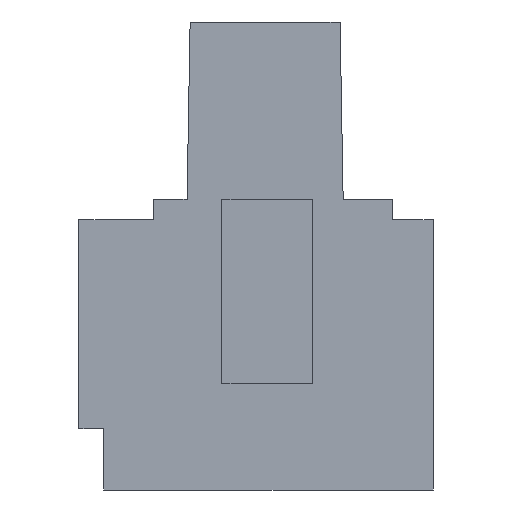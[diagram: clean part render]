
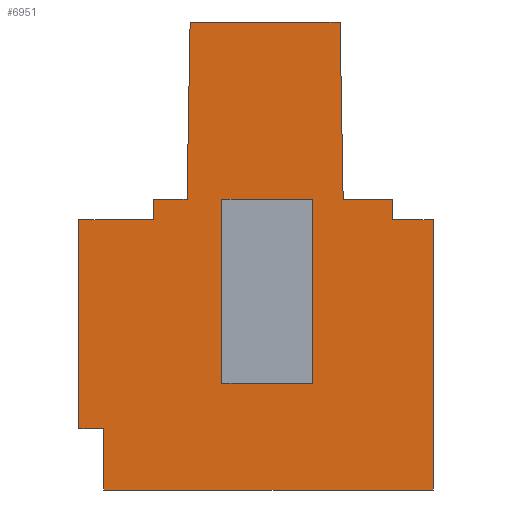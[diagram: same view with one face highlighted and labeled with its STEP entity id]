
A CAD part, left-side view. The second image highlights one B-rep face of the part: STEP entity #6951.
In plain terms, the highlighted planar face has unit normal (-1, 0, 0).
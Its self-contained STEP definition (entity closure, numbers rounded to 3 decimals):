
#2=DIRECTION('',(0.,-0.017,-1.));
#3=VECTOR('',#2,7.801);
#4=CARTESIAN_POINT('',(0.,4.1,20.6));
#5=LINE('',#4,#3);
#6=DIRECTION('',(0.,-1.,0.));
#7=VECTOR('',#6,2.164);
#8=CARTESIAN_POINT('',(0.,3.964,12.8));
#9=LINE('',#8,#7);
#10=DIRECTION('',(0.,0.,-1.));
#11=VECTOR('',#10,0.9);
#12=CARTESIAN_POINT('',(0.,1.8,12.8));
#13=LINE('',#12,#11);
#14=DIRECTION('',(0.,-1.,0.));
#15=VECTOR('',#14,1.8);
#16=CARTESIAN_POINT('',(0.,1.8,11.9));
#17=LINE('',#16,#15);
#18=DIRECTION('',(0.,0.,-1.));
#19=VECTOR('',#18,11.9);
#20=CARTESIAN_POINT('',(0.,0.,11.9));
#21=LINE('',#20,#19);
#22=DIRECTION('',(0.,1.,0.));
#23=VECTOR('',#22,14.5);
#24=CARTESIAN_POINT('',(0.,0.,0.));
#25=LINE('',#24,#23);
#26=DIRECTION('',(0.,0.,1.));
#27=VECTOR('',#26,2.7);
#28=CARTESIAN_POINT('',(0.,14.5,0.));
#29=LINE('',#28,#27);
#30=DIRECTION('',(0.,1.,0.));
#31=VECTOR('',#30,1.1);
#32=CARTESIAN_POINT('',(0.,14.5,2.7));
#33=LINE('',#32,#31);
#34=DIRECTION('',(0.,0.,1.));
#35=VECTOR('',#34,9.2);
#36=CARTESIAN_POINT('',(0.,15.6,2.7));
#37=LINE('',#36,#35);
#38=DIRECTION('',(0.,-1.,0.));
#39=VECTOR('',#38,3.3);
#40=CARTESIAN_POINT('',(0.,15.6,11.9));
#41=LINE('',#40,#39);
#42=DIRECTION('',(0.,0.,1.));
#43=VECTOR('',#42,0.9);
#44=CARTESIAN_POINT('',(0.,12.3,11.9));
#45=LINE('',#44,#43);
#46=DIRECTION('',(0.,-1.,0.));
#47=VECTOR('',#46,1.464);
#48=CARTESIAN_POINT('',(0.,12.3,12.8));
#49=LINE('',#48,#47);
#50=DIRECTION('',(0.,-0.017,1.));
#51=VECTOR('',#50,7.801);
#52=CARTESIAN_POINT('',(0.,10.836,12.8));
#53=LINE('',#52,#51);
#54=DIRECTION('',(0.,-1.,0.));
#55=VECTOR('',#54,6.6);
#56=CARTESIAN_POINT('',(0.,10.7,20.6));
#57=LINE('',#56,#55);
#58=DIRECTION('',(0.,-1.,0.));
#59=VECTOR('',#58,4.);
#60=CARTESIAN_POINT('',(0.,9.3,12.8));
#61=LINE('',#60,#59);
#62=DIRECTION('',(0.,0.,1.));
#63=VECTOR('',#62,8.1);
#64=CARTESIAN_POINT('',(0.,9.3,4.7));
#65=LINE('',#64,#63);
#66=DIRECTION('',(0.,1.,0.));
#67=VECTOR('',#66,4.);
#68=CARTESIAN_POINT('',(0.,5.3,4.7));
#69=LINE('',#68,#67);
#70=DIRECTION('',(0.,0.,-1.));
#71=VECTOR('',#70,8.1);
#72=CARTESIAN_POINT('',(0.,5.3,12.8));
#73=LINE('',#72,#71);
#5330=CARTESIAN_POINT('',(0.,4.1,20.6));
#5331=CARTESIAN_POINT('',(0.,3.964,12.8));
#5332=VERTEX_POINT('',#5330);
#5333=VERTEX_POINT('',#5331);
#5334=CARTESIAN_POINT('',(0.,1.8,12.8));
#5335=VERTEX_POINT('',#5334);
#5336=CARTESIAN_POINT('',(0.,1.8,11.9));
#5337=VERTEX_POINT('',#5336);
#5338=CARTESIAN_POINT('',(0.,0.,11.9));
#5339=VERTEX_POINT('',#5338);
#5340=CARTESIAN_POINT('',(0.,0.,0.));
#5341=VERTEX_POINT('',#5340);
#5342=CARTESIAN_POINT('',(0.,14.5,0.));
#5343=VERTEX_POINT('',#5342);
#5344=CARTESIAN_POINT('',(0.,14.5,2.7));
#5345=VERTEX_POINT('',#5344);
#5346=CARTESIAN_POINT('',(0.,15.6,2.7));
#5347=VERTEX_POINT('',#5346);
#5348=CARTESIAN_POINT('',(0.,15.6,11.9));
#5349=VERTEX_POINT('',#5348);
#5350=CARTESIAN_POINT('',(0.,12.3,11.9));
#5351=VERTEX_POINT('',#5350);
#5352=CARTESIAN_POINT('',(0.,12.3,12.8));
#5353=VERTEX_POINT('',#5352);
#5354=CARTESIAN_POINT('',(0.,10.836,12.8));
#5355=VERTEX_POINT('',#5354);
#5356=CARTESIAN_POINT('',(0.,10.7,20.6));
#5357=VERTEX_POINT('',#5356);
#6266=CARTESIAN_POINT('',(0.,9.3,12.8));
#6267=CARTESIAN_POINT('',(0.,5.3,12.8));
#6268=VERTEX_POINT('',#6266);
#6269=VERTEX_POINT('',#6267);
#6270=CARTESIAN_POINT('',(0.,5.3,4.7));
#6271=VERTEX_POINT('',#6270);
#6272=CARTESIAN_POINT('',(0.,9.3,4.7));
#6273=VERTEX_POINT('',#6272);
#6906=CARTESIAN_POINT('',(0.,0.,0.));
#6907=DIRECTION('',(1.,0.,0.));
#6908=DIRECTION('',(0.,0.,-1.));
#6909=AXIS2_PLACEMENT_3D('',#6906,#6907,#6908);
#6910=PLANE('',#6909);
#6912=ORIENTED_EDGE('',*,*,#6911,.T.);
#6914=ORIENTED_EDGE('',*,*,#6913,.T.);
#6916=ORIENTED_EDGE('',*,*,#6915,.T.);
#6918=ORIENTED_EDGE('',*,*,#6917,.T.);
#6920=ORIENTED_EDGE('',*,*,#6919,.T.);
#6922=ORIENTED_EDGE('',*,*,#6921,.T.);
#6924=ORIENTED_EDGE('',*,*,#6923,.T.);
#6926=ORIENTED_EDGE('',*,*,#6925,.T.);
#6928=ORIENTED_EDGE('',*,*,#6927,.T.);
#6930=ORIENTED_EDGE('',*,*,#6929,.T.);
#6932=ORIENTED_EDGE('',*,*,#6931,.T.);
#6934=ORIENTED_EDGE('',*,*,#6933,.T.);
#6936=ORIENTED_EDGE('',*,*,#6935,.T.);
#6938=ORIENTED_EDGE('',*,*,#6937,.T.);
#6939=EDGE_LOOP('',(#6912,#6914,#6916,#6918,#6920,#6922,#6924,#6926,#6928,#6930,
#6932,#6934,#6936,#6938));
#6940=FACE_OUTER_BOUND('',#6939,.F.);
#6942=ORIENTED_EDGE('',*,*,#6941,.F.);
#6944=ORIENTED_EDGE('',*,*,#6943,.F.);
#6946=ORIENTED_EDGE('',*,*,#6945,.F.);
#6948=ORIENTED_EDGE('',*,*,#6947,.F.);
#6949=EDGE_LOOP('',(#6942,#6944,#6946,#6948));
#6950=FACE_BOUND('',#6949,.F.);
#6951=ADVANCED_FACE('',(#6940,#6950),#6910,.F.);
#6911=EDGE_CURVE('',#5332,#5333,#5,.T.);
#6913=EDGE_CURVE('',#5333,#5335,#9,.T.);
#6915=EDGE_CURVE('',#5335,#5337,#13,.T.);
#6917=EDGE_CURVE('',#5337,#5339,#17,.T.);
#6919=EDGE_CURVE('',#5339,#5341,#21,.T.);
#6921=EDGE_CURVE('',#5341,#5343,#25,.T.);
#6923=EDGE_CURVE('',#5343,#5345,#29,.T.);
#6925=EDGE_CURVE('',#5345,#5347,#33,.T.);
#6927=EDGE_CURVE('',#5347,#5349,#37,.T.);
#6929=EDGE_CURVE('',#5349,#5351,#41,.T.);
#6931=EDGE_CURVE('',#5351,#5353,#45,.T.);
#6933=EDGE_CURVE('',#5353,#5355,#49,.T.);
#6935=EDGE_CURVE('',#5355,#5357,#53,.T.);
#6937=EDGE_CURVE('',#5357,#5332,#57,.T.);
#6941=EDGE_CURVE('',#6268,#6269,#61,.T.);
#6943=EDGE_CURVE('',#6273,#6268,#65,.T.);
#6945=EDGE_CURVE('',#6271,#6273,#69,.T.);
#6947=EDGE_CURVE('',#6269,#6271,#73,.T.);
